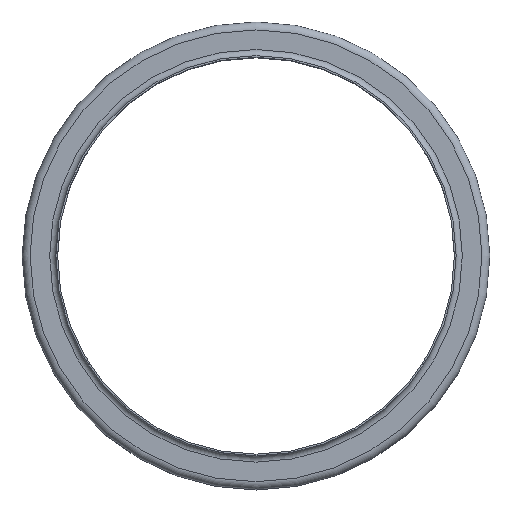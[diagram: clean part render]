
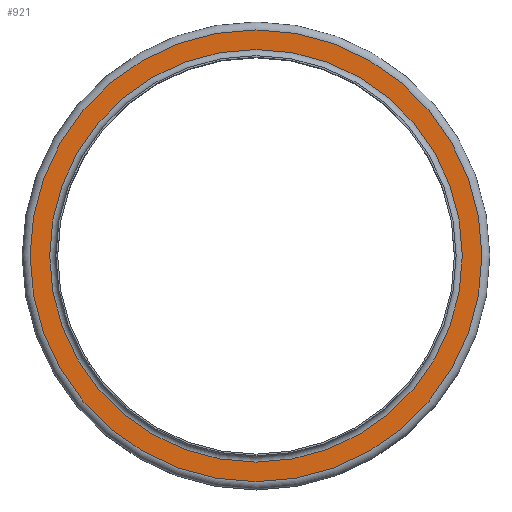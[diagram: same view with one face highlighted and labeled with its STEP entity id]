
A CAD part, top view. The second image highlights one B-rep face of the part: STEP entity #921.
In plain terms, the highlighted planar face has unit normal (0, 0, 1).
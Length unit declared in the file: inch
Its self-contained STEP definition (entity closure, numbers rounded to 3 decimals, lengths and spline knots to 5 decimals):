
#98=FACE_BOUND('',#272,.T.);
#165=FACE_OUTER_BOUND('',#271,.T.);
#271=EDGE_LOOP('',(#772));
#272=EDGE_LOOP('',(#773));
#385=CIRCLE('',#1110,7.28);
#386=CIRCLE('',#1112,7.97);
#466=VERTEX_POINT('',#1734);
#467=VERTEX_POINT('',#1738);
#571=EDGE_CURVE('',#466,#466,#385,.T.);
#572=EDGE_CURVE('',#467,#467,#386,.T.);
#772=ORIENTED_EDGE('',*,*,#572,.F.);
#773=ORIENTED_EDGE('',*,*,#571,.T.);
#854=PLANE('',#1111);
#921=ADVANCED_FACE('',(#165,#98),#854,.T.);
#1110=AXIS2_PLACEMENT_3D('',#1736,#1446,#1447);
#1111=AXIS2_PLACEMENT_3D('',#1737,#1448,#1449);
#1112=AXIS2_PLACEMENT_3D('',#1739,#1450,#1451);
#1446=DIRECTION('center_axis',(0.,0.,-1.));
#1447=DIRECTION('ref_axis',(1.,0.,0.));
#1448=DIRECTION('center_axis',(0.,0.,1.));
#1449=DIRECTION('ref_axis',(1.,0.,0.));
#1450=DIRECTION('center_axis',(0.,0.,-1.));
#1451=DIRECTION('ref_axis',(1.,0.,0.));
#1734=CARTESIAN_POINT('',(7.28,0.,-0.22));
#1736=CARTESIAN_POINT('Origin',(0.,0.,-0.22));
#1737=CARTESIAN_POINT('Origin',(0.,7.97,-0.22));
#1738=CARTESIAN_POINT('',(7.97,0.,-0.22));
#1739=CARTESIAN_POINT('Origin',(0.,0.,-0.22));
